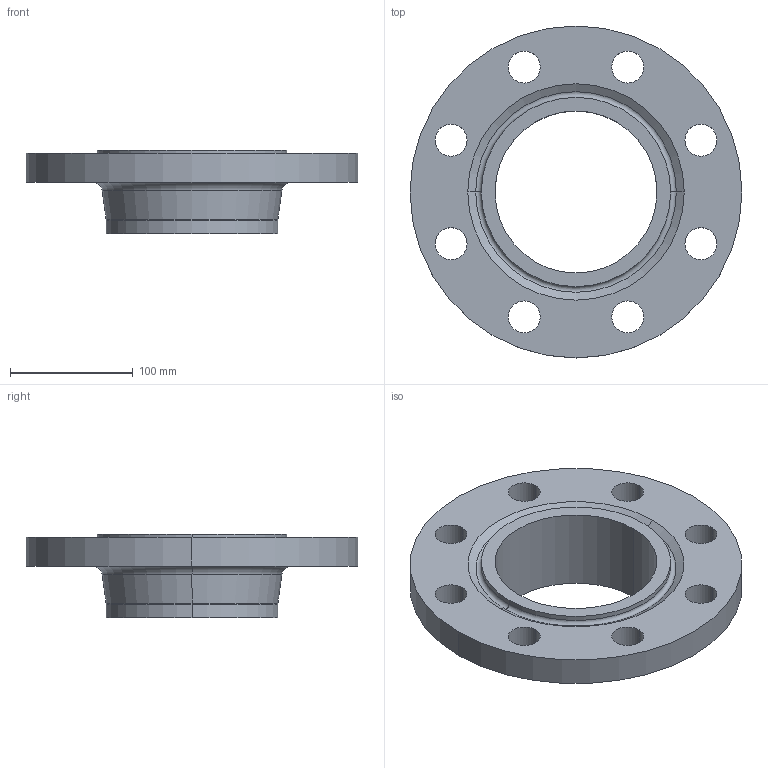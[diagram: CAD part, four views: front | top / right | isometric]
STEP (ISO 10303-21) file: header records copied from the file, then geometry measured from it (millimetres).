
FILE_DESCRIPTION (( 'STEP AP214' ), '1' );
FILE_NAME ('PN40 DN125 Type 11 - Type H Face.STEP', '2019-01-02T19:23:20', ( '' ), ( '' ), 'SwSTEP 2.0', 'SolidWorks 2019', '' );
FILE_SCHEMA (( 'AUTOMOTIVE_DESIGN' ));
Length unit declared in the file: millimetre
Products named in the file (1): PN40 DN125 Type 11 - Type H Face
Bounding box: 270 x 270 x 68 mm (x, y, z)
Volume: 1026830.6 mm3; surface area: 161574.5 mm2
Topology: 1 solids, 1 shells, 38 faces, 92 edges, 58 vertices
Faces by surface type: cylinder 24, torus 6, cone 4, plane 4
Entity records: 1210 total; most frequent: DIRECTION 234, CARTESIAN_POINT 189, ORIENTED_EDGE 184, AXIS2_PLACEMENT_3D 103, EDGE_CURVE 92, CIRCLE 64, EDGE_LOOP 58, VERTEX_POINT 58
